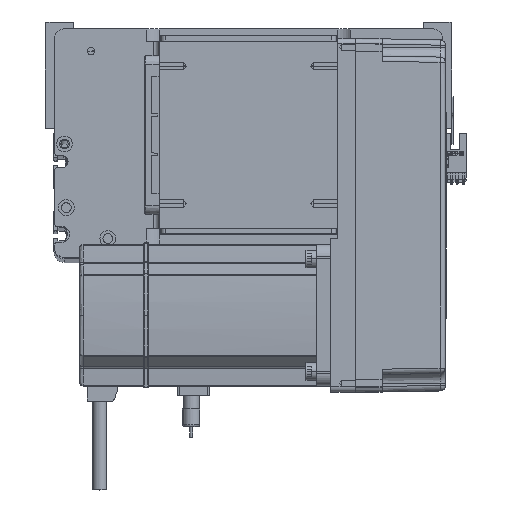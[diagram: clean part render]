
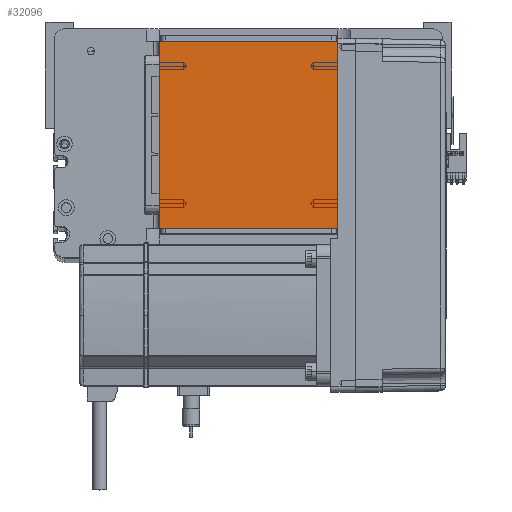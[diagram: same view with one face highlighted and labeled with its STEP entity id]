
A CAD part, top view. The second image highlights one B-rep face of the part: STEP entity #32096.
In plain terms, the highlighted planar face has unit normal (0, 0, 1).
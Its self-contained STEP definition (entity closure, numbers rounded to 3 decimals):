
#65 = LINE ( 'NONE', #19254, #13330 ) ;
#1232 = ORIENTED_EDGE ( 'NONE', *, *, #29025, .T. ) ;
#4194 = AXIS2_PLACEMENT_3D ( 'NONE', #31929, #43561, #40078 ) ;
#4334 = CARTESIAN_POINT ( 'NONE',  ( -50.5, 16., 115. ) ) ;
#9082 = LINE ( 'NONE', #15273, #30506 ) ;
#10950 = EDGE_LOOP ( 'NONE', ( #39283, #51779, #13434, #1232 ) ) ;
#13330 = VECTOR ( 'NONE', #51406, 1000. ) ;
#13434 = ORIENTED_EDGE ( 'NONE', *, *, #46817, .T. ) ;
#13922 = VECTOR ( 'NONE', #37213, 1000. ) ;
#14236 = VERTEX_POINT ( 'NONE', #17811 ) ;
#14322 = CARTESIAN_POINT ( 'NONE',  ( -50.5, 122., 115. ) ) ;
#14388 = CARTESIAN_POINT ( 'NONE',  ( -50.5, 122., 115. ) ) ;
#15273 = CARTESIAN_POINT ( 'NONE',  ( 50.5, 122., 115. ) ) ;
#17811 = CARTESIAN_POINT ( 'NONE',  ( 50.5, 122., 115. ) ) ;
#19227 = VERTEX_POINT ( 'NONE', #14388 ) ;
#19254 = CARTESIAN_POINT ( 'NONE',  ( -50.5, 122., 115. ) ) ;
#22746 = FACE_OUTER_BOUND ( 'NONE', #10950, .T. ) ;
#28892 = EDGE_CURVE ( 'NONE', #19227, #33052, #37869, .T. ) ;
#29025 = EDGE_CURVE ( 'NONE', #14236, #19227, #65, .T. ) ;
#30506 = VECTOR ( 'NONE', #35870, 1000. ) ;
#31929 = CARTESIAN_POINT ( 'NONE',  ( 0., 0., 115. ) ) ;
#32096 = ADVANCED_FACE ( 'NONE', ( #22746 ), #35657, .T. ) ;
#32229 = VERTEX_POINT ( 'NONE', #44885 ) ;
#33052 = VERTEX_POINT ( 'NONE', #4334 ) ;
#35657 = PLANE ( 'NONE',  #4194 ) ;
#35870 = DIRECTION ( 'NONE',  ( 0., 1., 0. ) ) ;
#36576 = CARTESIAN_POINT ( 'NONE',  ( -50.5, 16., 115. ) ) ;
#37213 = DIRECTION ( 'NONE',  ( 0., -1., 0. ) ) ;
#37869 = LINE ( 'NONE', #14322, #13922 ) ;
#39283 = ORIENTED_EDGE ( 'NONE', *, *, #28892, .T. ) ;
#40078 = DIRECTION ( 'NONE',  ( 1., 0., 0. ) ) ;
#43561 = DIRECTION ( 'NONE',  ( 0., 0., 1. ) ) ;
#44885 = CARTESIAN_POINT ( 'NONE',  ( 50.5, 16., 115. ) ) ;
#45938 = LINE ( 'NONE', #36576, #50324 ) ;
#46817 = EDGE_CURVE ( 'NONE', #32229, #14236, #9082, .T. ) ;
#48659 = DIRECTION ( 'NONE',  ( 1., 0., 0. ) ) ;
#49138 = EDGE_CURVE ( 'NONE', #33052, #32229, #45938, .T. ) ;
#50324 = VECTOR ( 'NONE', #48659, 1000. ) ;
#51406 = DIRECTION ( 'NONE',  ( -1., 0., 0. ) ) ;
#51779 = ORIENTED_EDGE ( 'NONE', *, *, #49138, .T. ) ;
